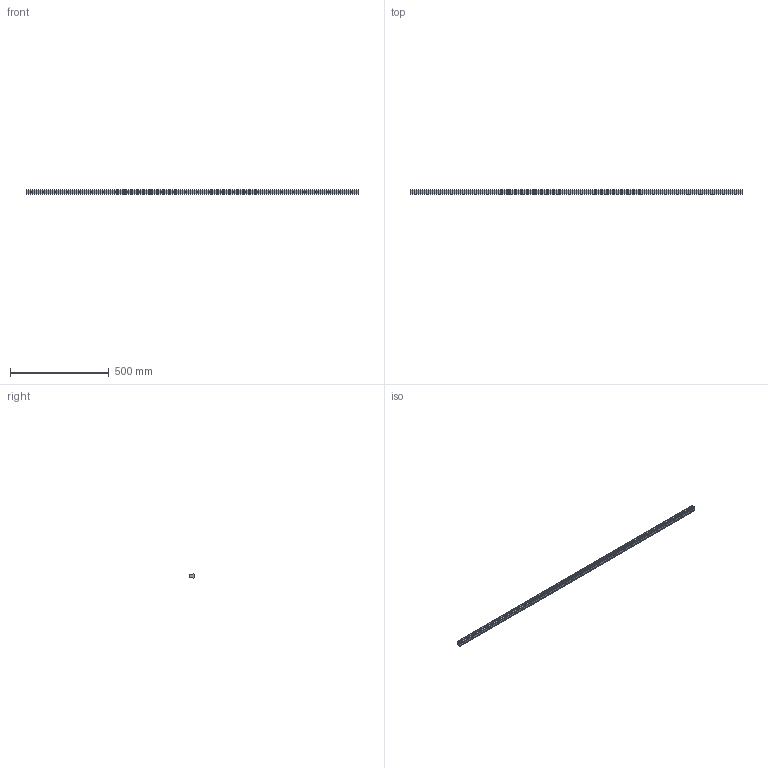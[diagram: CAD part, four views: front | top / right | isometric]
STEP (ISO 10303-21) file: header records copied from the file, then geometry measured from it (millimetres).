
FILE_DESCRIPTION (( 'STEP AP203' ), '1' );
FILE_NAME ('L1018.25R-1680.step', '2023-08-06T10:38:23', ( '' ), ( '' ), 'SwSTEP 2.0', 'SolidWorks 2019', '' );
FILE_SCHEMA (( 'CONFIG_CONTROL_DESIGN' ));
Length unit declared in the file: millimetre
Products named in the file (1): L1018.25R-1680
Bounding box: 1680 x 21.8 x 25 mm (x, y, z)
Volume: 698692 mm3; surface area: 167669.1 mm2
Topology: 1 solids, 1 shells, 281 faces, 641 edges, 362 vertices
Faces by surface type: cylinder 115, cone 112, plane 54
Entity records: 7550 total; most frequent: DIRECTION 1435, CARTESIAN_POINT 1229, ORIENTED_EDGE 1170, EDGE_CURVE 585, AXIS2_PLACEMENT_3D 568, VERTEX_POINT 362, EDGE_LOOP 337, LINE 299
